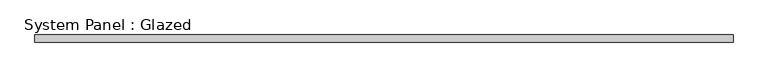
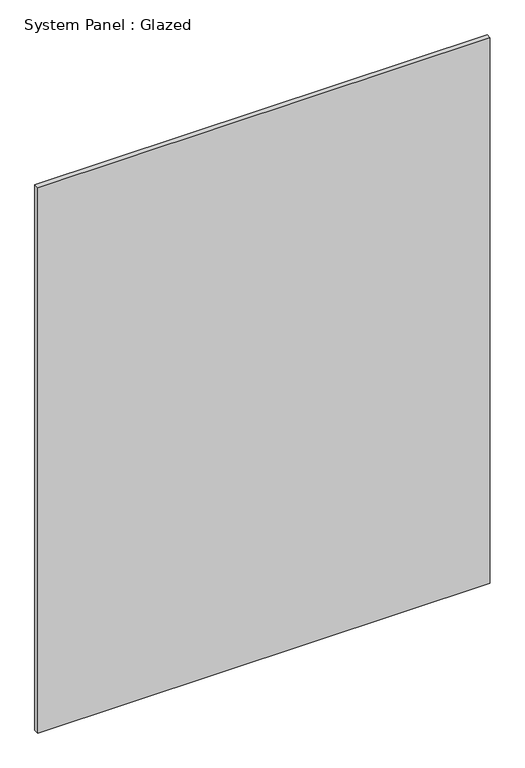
"""IFC4 building model written with IfcOpenShell, lengths in millimetres: plate geometry, System Panel : Glazed."""

from ifc_helpers import new_model, si_unit, origin, origin_with_axes, place, context, project, spatial, polyline, outline, extrude, source, transform, mapped, element, save


def system_panel_glazed_ece86c27(model_context):
    return source(origin(), model_context, "Body", "SweptSolid", [
        extrude(outline(polyline([(1171.5750001, -44.45), (-1171.5750001, -44.45), (-1171.5750001, -19.05), (1171.5750001, -19.05), (1171.5750001, -44.45)])), origin_with_axes(), (0.0, 0.0, 1.0), 2984.5),
    ])


if __name__ == "__main__":
    model = new_model("IFC4")
    model_context = context("Model", 3, world=origin())
    ifc_project = project(units=[si_unit("LENGTHUNIT", "METRE", prefix="MILLI")], contexts=[model_context])
    site = spatial("IfcSite", under=ifc_project)
    building = spatial("IfcBuilding", under=site)
    placement = place(None, origin())
    system_panel_glazed_shape = system_panel_glazed_ece86c27(model_context)
    element("IfcPlate", 1, ObjectType="System Panel : Glazed", at=placement, inside=building, context=model_context, shape_type="MappedRepresentation", body=[
        mapped(system_panel_glazed_shape, transform((0.0, 0.0, 0.0), x_axis=(1.0, 0.0, 0.0), y_axis=(0.0, 1.0, 0.0), z_axis=(0.0, 0.0, 1.0))),
    ])
    save(model, "model.ifc")
